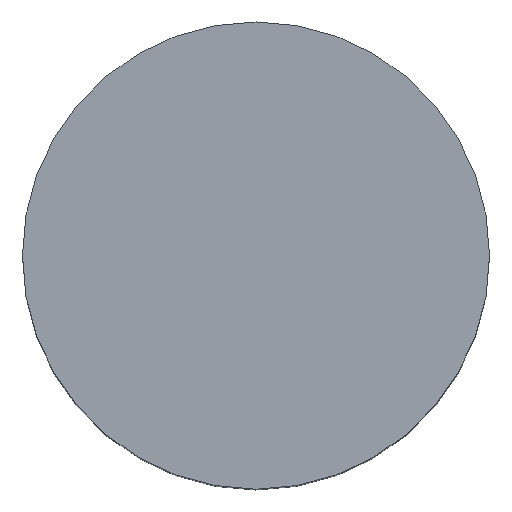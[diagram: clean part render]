
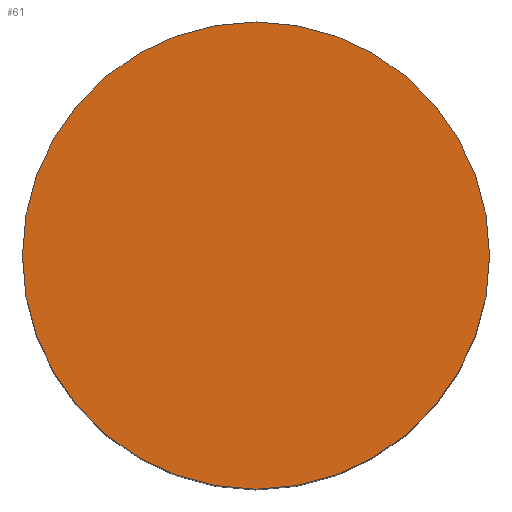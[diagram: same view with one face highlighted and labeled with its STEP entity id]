
A CAD part, top view. The second image highlights one B-rep face of the part: STEP entity #61.
In plain terms, the highlighted planar face has unit normal (0, 0, 1).
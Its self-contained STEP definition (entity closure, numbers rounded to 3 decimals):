
#51 = DIRECTION ( 'NONE',  ( 1., 0., 0. ) ) ;
#52 = DIRECTION ( 'NONE',  ( 0., 0., 1. ) ) ;
#54 = CARTESIAN_POINT ( 'NONE',  ( 0., 0., 0. ) ) ;
#61 = ADVANCED_FACE ( 'NONE', ( #385 ), #342, .F. ) ;
#65 = AXIS2_PLACEMENT_3D ( 'NONE', #54, #52, #51 ) ;
#104 = ORIENTED_EDGE ( 'NONE', *, *, #158, .T. ) ;
#107 = CIRCLE ( 'NONE', #369, 5. ) ;
#114 = ORIENTED_EDGE ( 'NONE', *, *, #326, .T. ) ;
#123 = EDGE_LOOP ( 'NONE', ( #114, #104 ) ) ;
#132 = CARTESIAN_POINT ( 'NONE',  ( -5., 0., 0. ) ) ;
#158 = EDGE_CURVE ( 'NONE', #322, #187, #107, .T. ) ;
#169 = AXIS2_PLACEMENT_3D ( 'NONE', #304, #303, #301 ) ;
#187 = VERTEX_POINT ( 'NONE', #239 ) ;
#239 = CARTESIAN_POINT ( 'NONE',  ( 5., 0., 0. ) ) ;
#240 = DIRECTION ( 'NONE',  ( 1., 0., 0. ) ) ;
#241 = DIRECTION ( 'NONE',  ( 0., 0., 1. ) ) ;
#243 = CARTESIAN_POINT ( 'NONE',  ( 0., 0., 0. ) ) ;
#254 = CIRCLE ( 'NONE', #65, 5. ) ;
#301 = DIRECTION ( 'NONE',  ( -1., 0., 0. ) ) ;
#303 = DIRECTION ( 'NONE',  ( 0., 0., -1. ) ) ;
#304 = CARTESIAN_POINT ( 'NONE',  ( 5., 0., 0. ) ) ;
#322 = VERTEX_POINT ( 'NONE', #132 ) ;
#326 = EDGE_CURVE ( 'NONE', #187, #322, #254, .T. ) ;
#342 = PLANE ( 'NONE',  #169 ) ;
#369 = AXIS2_PLACEMENT_3D ( 'NONE', #243, #241, #240 ) ;
#385 = FACE_OUTER_BOUND ( 'NONE', #123, .T. ) ;
